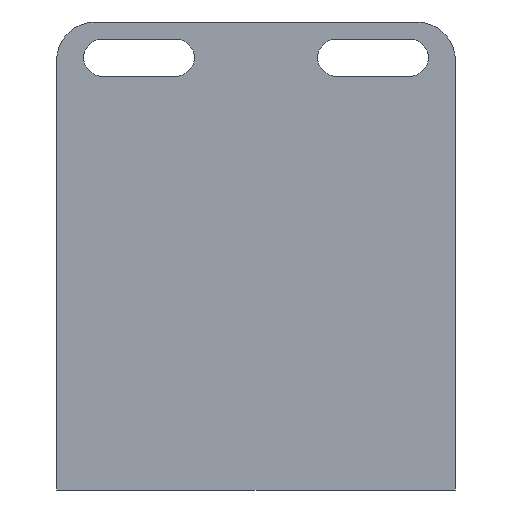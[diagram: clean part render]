
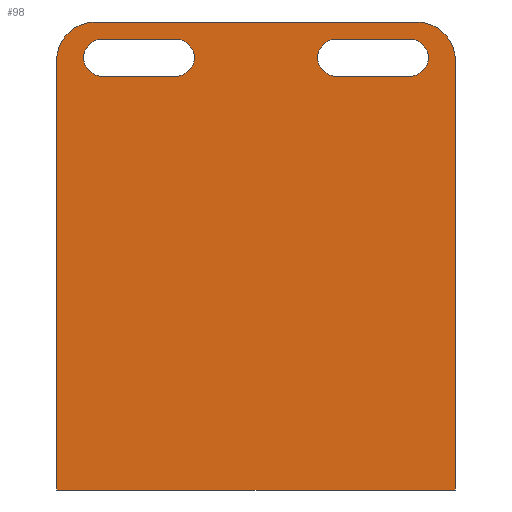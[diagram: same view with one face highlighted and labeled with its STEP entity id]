
A CAD part, left-side view. The second image highlights one B-rep face of the part: STEP entity #98.
In plain terms, the highlighted planar face has unit normal (-1, 0, 0).
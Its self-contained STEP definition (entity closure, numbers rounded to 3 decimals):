
#98 = ADVANCED_FACE( 'NONE', ( #195, #196, #197 ), #198, .F. );
#195 = FACE_OUTER_BOUND( '', #286, .T. );
#196 = FACE_BOUND( '', #287, .T. );
#197 = FACE_BOUND( '', #288, .T. );
#198 = PLANE( '', #289 );
#286 = EDGE_LOOP( '', ( #505, #506, #507, #508, #509, #510 ) );
#287 = EDGE_LOOP( '', ( #511, #512, #513, #514 ) );
#288 = EDGE_LOOP( '', ( #515, #516, #517, #518 ) );
#289 = AXIS2_PLACEMENT_3D( '', #519, #520, #521 );
#505 = ORIENTED_EDGE( '', *, *, #616, .F. );
#506 = ORIENTED_EDGE( '', *, *, #565, .T. );
#507 = ORIENTED_EDGE( '', *, *, #588, .F. );
#508 = ORIENTED_EDGE( '', *, *, #600, .T. );
#509 = ORIENTED_EDGE( '', *, *, #619, .F. );
#510 = ORIENTED_EDGE( '', *, *, #571, .F. );
#511 = ORIENTED_EDGE( '', *, *, #592, .T. );
#512 = ORIENTED_EDGE( '', *, *, #545, .T. );
#513 = ORIENTED_EDGE( '', *, *, #542, .T. );
#514 = ORIENTED_EDGE( '', *, *, #580, .T. );
#515 = ORIENTED_EDGE( '', *, *, #560, .T. );
#516 = ORIENTED_EDGE( '', *, *, #595, .T. );
#517 = ORIENTED_EDGE( '', *, *, #553, .T. );
#518 = ORIENTED_EDGE( '', *, *, #568, .T. );
#519 = CARTESIAN_POINT( '', ( 0., -25.7, 30.15 ) );
#520 = DIRECTION( '', ( 1., 0., 0. ) );
#521 = DIRECTION( '', ( 0., -1., 0. ) );
#542 = EDGE_CURVE( 'NONE', #645, #643, #646, .T. );
#545 = EDGE_CURVE( 'NONE', #649, #645, #650, .T. );
#553 = EDGE_CURVE( 'NONE', #661, #662, #663, .T. );
#560 = EDGE_CURVE( 'NONE', #675, #673, #676, .T. );
#565 = EDGE_CURVE( 'NONE', #684, #682, #685, .T. );
#568 = EDGE_CURVE( 'NONE', #662, #675, #688, .T. );
#571 = EDGE_CURVE( 'NONE', #691, #692, #693, .T. );
#580 = EDGE_CURVE( 'NONE', #643, #706, #707, .T. );
#588 = EDGE_CURVE( 'NONE', #718, #682, #719, .T. );
#592 = EDGE_CURVE( 'NONE', #706, #649, #724, .T. );
#595 = EDGE_CURVE( 'NONE', #673, #661, #727, .T. );
#600 = EDGE_CURVE( 'NONE', #718, #732, #734, .T. );
#616 = EDGE_CURVE( 'NONE', #684, #691, #752, .T. );
#619 = EDGE_CURVE( 'NONE', #692, #732, #755, .T. );
#643 = VERTEX_POINT( 'NONE', #787 );
#645 = VERTEX_POINT( 'NONE', #790 );
#646 = CIRCLE( '', #791, 2.4 );
#649 = VERTEX_POINT( 'NONE', #795 );
#650 = LINE( '', #796, #797 );
#661 = VERTEX_POINT( 'NONE', #813 );
#662 = VERTEX_POINT( 'NONE', #814 );
#663 = CIRCLE( '', #815, 2.4 );
#673 = VERTEX_POINT( 'NONE', #827 );
#675 = VERTEX_POINT( 'NONE', #830 );
#676 = CIRCLE( '', #831, 2.4 );
#682 = VERTEX_POINT( 'NONE', #838 );
#684 = VERTEX_POINT( 'NONE', #841 );
#685 = CIRCLE( '', #842, 5. );
#688 = LINE( '', #846, #847 );
#691 = VERTEX_POINT( 'NONE', #851 );
#692 = VERTEX_POINT( 'NONE', #852 );
#693 = LINE( '', #853, #854 );
#706 = VERTEX_POINT( 'NONE', #873 );
#707 = LINE( '', #874, #875 );
#718 = VERTEX_POINT( 'NONE', #891 );
#719 = LINE( '', #892, #893 );
#724 = CIRCLE( '', #900, 2.4 );
#727 = LINE( '', #903, #904 );
#732 = VERTEX_POINT( 'NONE', #910 );
#734 = CIRCLE( '', #913, 5. );
#752 = LINE( '', #940, #941 );
#755 = LINE( '', #944, #945 );
#787 = CARTESIAN_POINT( '', ( 0., -10.35, 27.95 ) );
#790 = CARTESIAN_POINT( '', ( 0., -10.35, 23.15 ) );
#791 = AXIS2_PLACEMENT_3D( '', #960, #961, #962 );
#795 = CARTESIAN_POINT( '', ( 0., -19.8, 23.15 ) );
#796 = CARTESIAN_POINT( '', ( 0., -25.7, 23.15 ) );
#797 = VECTOR( '', #964, 1000. );
#813 = CARTESIAN_POINT( '', ( 0., 10.35, 27.95 ) );
#814 = CARTESIAN_POINT( '', ( 0., 10.35, 23.15 ) );
#815 = AXIS2_PLACEMENT_3D( '', #970, #971, #972 );
#827 = CARTESIAN_POINT( '', ( 0., 19.8, 27.95 ) );
#830 = CARTESIAN_POINT( '', ( 0., 19.8, 23.15 ) );
#831 = AXIS2_PLACEMENT_3D( '', #982, #983, #984 );
#838 = CARTESIAN_POINT( '', ( 0., -20.7, 30.15 ) );
#841 = CARTESIAN_POINT( '', ( 0., -25.7, 25.15 ) );
#842 = AXIS2_PLACEMENT_3D( '', #990, #991, #992 );
#846 = CARTESIAN_POINT( '', ( 0., 19.8, 23.15 ) );
#847 = VECTOR( '', #994, 1000. );
#851 = CARTESIAN_POINT( '', ( 0., -25.7, -30.15 ) );
#852 = CARTESIAN_POINT( '', ( 0., 25.7, -30.15 ) );
#853 = CARTESIAN_POINT( '', ( 0., 25.7, -30.15 ) );
#854 = VECTOR( '', #996, 1000. );
#873 = CARTESIAN_POINT( '', ( 0., -19.8, 27.95 ) );
#874 = CARTESIAN_POINT( '', ( 0., -19.8, 27.95 ) );
#875 = VECTOR( '', #1003, 1000. );
#891 = CARTESIAN_POINT( '', ( 0., 20.7, 30.15 ) );
#892 = CARTESIAN_POINT( '', ( 0., 25.7, 30.15 ) );
#893 = VECTOR( '', #1009, 1000. );
#900 = AXIS2_PLACEMENT_3D( '', #1012, #1013, #1014 );
#903 = CARTESIAN_POINT( '', ( 0., -25.7, 27.95 ) );
#904 = VECTOR( '', #1018, 1000. );
#910 = CARTESIAN_POINT( '', ( 0., 25.7, 25.15 ) );
#913 = AXIS2_PLACEMENT_3D( '', #1024, #1025, #1026 );
#940 = CARTESIAN_POINT( '', ( 0., -25.7, -30.15 ) );
#941 = VECTOR( '', #1036, 1000. );
#944 = CARTESIAN_POINT( '', ( 0., 25.7, -30.15 ) );
#945 = VECTOR( '', #1037, 1000. );
#960 = CARTESIAN_POINT( '', ( 0., -10.35, 25.55 ) );
#961 = DIRECTION( '', ( 1., 0., 0. ) );
#962 = DIRECTION( '', ( 0., 1., 0. ) );
#964 = DIRECTION( '', ( 0., 1., 0. ) );
#970 = CARTESIAN_POINT( '', ( 0., 10.35, 25.55 ) );
#971 = DIRECTION( '', ( 1., 0., 0. ) );
#972 = DIRECTION( '', ( 0., -1., 0. ) );
#982 = CARTESIAN_POINT( '', ( 0., 19.8, 25.55 ) );
#983 = DIRECTION( '', ( 1., 0., 0. ) );
#984 = DIRECTION( '', ( 0., -1., 0. ) );
#990 = CARTESIAN_POINT( '', ( 0., -20.7, 25.15 ) );
#991 = DIRECTION( '', ( -1., 0., 0. ) );
#992 = DIRECTION( '', ( 0., -1., 0. ) );
#994 = DIRECTION( '', ( 0., 1., 0. ) );
#996 = DIRECTION( '', ( 0., 1., 0. ) );
#1003 = DIRECTION( '', ( 0., -1., 0. ) );
#1009 = DIRECTION( '', ( 0., -1., 0. ) );
#1012 = CARTESIAN_POINT( '', ( 0., -19.8, 25.55 ) );
#1013 = DIRECTION( '', ( 1., 0., 0. ) );
#1014 = DIRECTION( '', ( 0., 1., 0. ) );
#1018 = DIRECTION( '', ( 0., -1., 0. ) );
#1024 = CARTESIAN_POINT( '', ( 0., 20.7, 25.15 ) );
#1025 = DIRECTION( '', ( -1., 0., 0. ) );
#1026 = DIRECTION( '', ( 0., -1., 0. ) );
#1036 = DIRECTION( '', ( 0., 0., -1. ) );
#1037 = DIRECTION( '', ( 0., 0., 1. ) );
